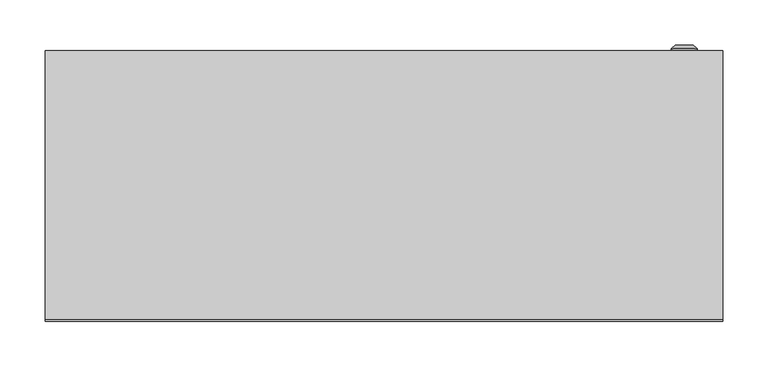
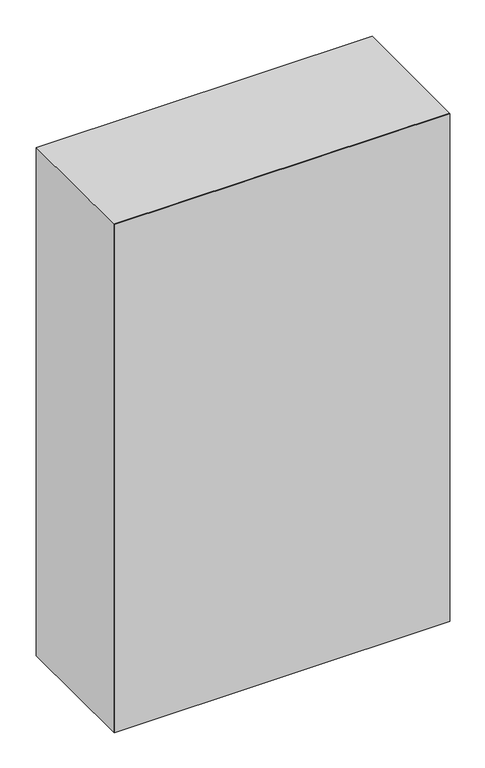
"""IFC4 building model written with IfcOpenShell, lengths in millimetres: proxy geometry, ЩМП : ЩМП-6-0_1200х750х300."""

from ifc_helpers import new_model, si_unit, frame, origin, origin_with_axes, place, context, project, spatial, polyline, circle_curve, outline, extrude, source, transform, mapped, element, save
from ifc_brep_helpers import plane_surface, cylinder_surface, revolved_surface, advanced_brep


def electrical_equipment_02008a58(model_context):
    return source(origin(), model_context, "Body", "SolidModel", [
        advanced_brep(
        [(318.169873, 300.0, 600.0), (346.830127, 300.0, 600.0), (332.5, 300.0, 600.0), (318.169873, 302.366592, 600.0), (346.830127, 302.366592, 600.0), (322.5, 306.0, 600.0), (342.5, 306.0, 600.0), (330.6080471, 306.0, 600.0), (334.3919529, 306.0, 600.0), (330.6080471, 304.9822294, 600.0), (334.3919529, 304.9822294, 600.0), (332.5, 304.9822294, 600.0)],
        [
            (0, 1, circle_curve(frame((332.5, 300.0, 600.0), z_axis=(0.0, -1.0, 0.0), x_axis=(1.0, 0.0, 0.0)), 14.330127)),
            (1, 2),
            (2, 0),
            (1, 0, circle_curve(frame((332.5, 300.0, 600.0), z_axis=(0.0, -1.0, 0.0), x_axis=(1.0, 0.0, 0.0)), 14.330127)),
            (3, 4, circle_curve(frame((332.5, 302.366592, 600.0), z_axis=(0.0, -1.0, 0.0), x_axis=(1.0, 0.0, 0.0)), 14.330127)),
            (4, 1),
            (0, 3),
            (4, 3, circle_curve(frame((332.5, 302.366592, 600.0), z_axis=(0.0, -1.0, 0.0), x_axis=(1.0, 0.0, 0.0)), 14.330127)),
            (5, 6, circle_curve(frame((332.5, 306.0, 600.0), z_axis=(0.0, -1.0, 0.0), x_axis=(1.0, 0.0, 0.0)), 10.0)),
            (6, 4),
            (3, 5),
            (6, 5, circle_curve(frame((332.5, 306.0, 600.0), z_axis=(0.0, -1.0, 0.0), x_axis=(1.0, 0.0, 0.0)), 10.0)),
            (7, 8, circle_curve(frame((332.5, 306.0, 600.0), z_axis=(0.0, -1.0, 0.0), x_axis=(1.0, 0.0, 0.0)), 1.8919529)),
            (8, 6),
            (5, 7),
            (8, 7, circle_curve(frame((332.5, 306.0, 600.0), z_axis=(0.0, -1.0, 0.0), x_axis=(1.0, 0.0, 0.0)), 1.8919529)),
            (9, 10, circle_curve(frame((332.5, 304.9822294, 600.0), z_axis=(0.0, -1.0, 0.0), x_axis=(1.0, 0.0, 0.0)), 1.8919529)),
            (10, 8),
            (7, 9),
            (10, 9, circle_curve(frame((332.5, 304.9822294, 600.0), z_axis=(0.0, -1.0, 0.0), x_axis=(1.0, 0.0, 0.0)), 1.8919529)),
            (11, 10),
            (9, 11),
        ],
        [
            plane_surface(frame((332.5, 300.0, 600.0), z_axis=(0.0, -1.0, 0.0), x_axis=(1.0, 0.0, 0.0))),
            cylinder_surface(frame((332.5, 313.1348851, 600.0), z_axis=(0.0, 1.0, 0.0), x_axis=(1.0, 0.0, 0.0)), 14.330127),
            revolved_surface(polyline([(346.830127, 302.366592, 600.0), (342.5, 306.0, 600.0)]), (332.5, 313.1348851, 600.0), (0.0, 1.0, 0.0)),
            plane_surface(frame((332.5, 306.0, 600.0), z_axis=(0.0, 1.0, 0.0), x_axis=(1.0, 0.0, 0.0))),
            revolved_surface(polyline([(334.3919529, 306.0, 600.0), (334.3919529, 304.9822294, 600.0)]), (332.5, 313.1348851, 600.0), (0.0, 1.0, 0.0)),
            plane_surface(frame((332.5, 304.9822294, 600.0), z_axis=(0.0, 1.0, 0.0), x_axis=(1.0, 0.0, 0.0))),
        ],
        [
            (0, [[1, 2, 3]]),
            (0, [[4, -3, -2]]),
            (1, [[5, 6, -1, 7]]),
            (1, [[8, -7, -4, -6]]),
            (2, [[9, 10, -5, 11]]),
            (2, [[12, -11, -8, -10]]),
            (3, [[13, 14, -9, 15]]),
            (3, [[16, -15, -12, -14]]),
            (4, [[17, 18, -13, 19]]),
            (4, [[20, -19, -16, -18]]),
            (5, [[21, -17, 22]]),
            (5, [[-22, -20, -21]]),
        ],
    ),
        extrude(outline(polyline([(357.75, 275.0), (-357.75, 275.0), (-357.75, 300.0), (357.75, 300.0), (357.75, 275.0)])), frame((0.0, 0.0, 18.5), z_axis=(0.0, 0.0, 1.0), x_axis=(1.0, 0.0, 0.0)), (0.0, 0.0, 1.0), 1163.0),
        extrude(outline(polyline([(1200.0, -375.0033905), (0.0, -375.0033905), (0.0, 374.9966095), (1200.0, 374.9966095), (1200.0, -375.0033905)]), holes=[polyline([(1165.0, -342.5033905), (1165.0, 342.4966095), (35.0, 342.4966095), (35.0, -342.5033905), (1165.0, -342.5033905)])]), frame((0.0, 2.0, 0.0), z_axis=(0.0, 1.0, 0.0), x_axis=(0.0, 0.0, 1.0)), (0.0, 0.0, 1.0), 298.0),
        extrude(outline(polyline([(375.0, 0.0), (-375.0, 0.0), (-375.0, 2.0), (375.0, 2.0), (375.0, 0.0)])), origin_with_axes(), (0.0, 0.0, 1.0), 1200.0),
    ])


if __name__ == "__main__":
    model = new_model("IFC4")
    model_context = context("Model", 3, world=origin())
    ifc_project = project(units=[si_unit("LENGTHUNIT", "METRE", prefix="MILLI")], contexts=[model_context])
    site = spatial("IfcSite", under=ifc_project)
    building = spatial("IfcBuilding", under=site)
    placement = place(None, origin())
    electrical_equipment_shape = electrical_equipment_02008a58(model_context)
    element("IfcBuildingElementProxy", 1, Name="ЩМП : ЩМП-6-0_1200х750х300", ObjectType="ЩМП : ЩМП-6-0_1200х750х300", at=placement, inside=building, context=model_context, shape_type="MappedRepresentation", body=[
        mapped(electrical_equipment_shape, transform((0.0, 0.0, 0.0), x_axis=(1.0, 0.0, 0.0), y_axis=(0.0, 1.0, 0.0), z_axis=(0.0, 0.0, 1.0))),
    ])
    save(model, "model.ifc")
